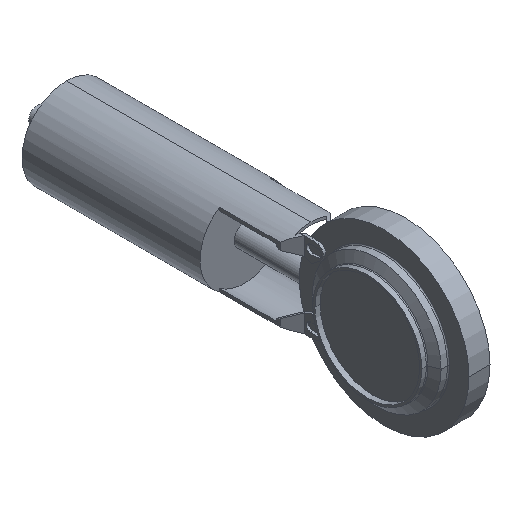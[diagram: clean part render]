
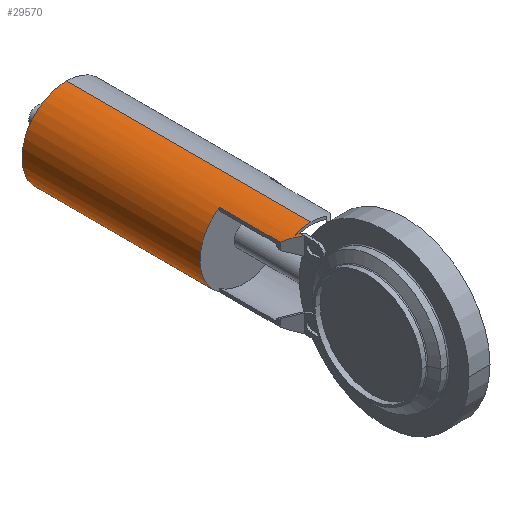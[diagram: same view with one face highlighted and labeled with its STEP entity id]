
A CAD part, isometric view. The second image highlights one B-rep face of the part: STEP entity #29570.
In plain terms, the highlighted cylindrical face has radius 42.5 mm (diameter 85 mm), a partial arc.
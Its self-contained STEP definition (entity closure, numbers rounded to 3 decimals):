
#18180=CARTESIAN_POINT('',(-438.648,176.528,
-35.075));
#18190=VERTEX_POINT('',#18180);
#18220=CARTESIAN_POINT('',(-414.648,176.528,
0.));
#18230=DIRECTION('',(0.,-1.,0.));
#18240=DIRECTION('',(0.,0.,1.));
#18250=AXIS2_PLACEMENT_3D('',#18220,#18230,#18240);
#18260=CIRCLE('',#18250,42.5);
#18270=CARTESIAN_POINT('',(-438.648,176.528,
35.075));
#18280=VERTEX_POINT('',#18270);
#18290=EDGE_CURVE('',#18280,#18190,#18260,.T.);
#23090=CARTESIAN_POINT('',(-414.648,113.128,
0.));
#23100=DIRECTION('',(0.,-1.,0.));
#23110=DIRECTION('',(0.,0.,-1.));
#23120=AXIS2_PLACEMENT_3D('',#23090,#23100,#23110);
#23130=CIRCLE('',#23120,42.5);
#23140=CARTESIAN_POINT('',(-414.648,113.128,-42.5));
#23150=VERTEX_POINT('',#23140);
#23180=CARTESIAN_POINT('',(-429.706,113.128,
-39.743));
#23190=VERTEX_POINT('',#23180);
#23200=EDGE_CURVE('',#23190,#23150,#23130,.T.);
#23460=CARTESIAN_POINT('',(-414.648,98.071,
0.));
#23470=DIRECTION('',(0.707,0.707,0.));
#23480=DIRECTION('',(0.707,-0.707,0.));
#23490=AXIS2_PLACEMENT_3D('',#23460,#23470,#23480);
#23500=ELLIPSE('',#23490,60.104,42.5);
#23510=CARTESIAN_POINT('',(-424.648,108.071,
-41.307));
#23520=VERTEX_POINT('',#23510);
#23530=EDGE_CURVE('',#23520,#23190,#23500,.T.);
#23710=CARTESIAN_POINT('',(-438.648,373.39,
-35.075));
#23720=DIRECTION('',(0.,-1.,0.));
#23730=VECTOR('',#23720,1.);
#23740=LINE('',#23710,#23730);
#23750=CARTESIAN_POINT('',(-438.648,118.535,
-35.075));
#23760=VERTEX_POINT('',#23750);
#23770=EDGE_CURVE('',#18190,#23760,#23740,.T.);
#24190=CARTESIAN_POINT('',(-427.148,100.58,
-40.62));
#24200=VERTEX_POINT('',#24190);
#24230=CARTESIAN_POINT('',(-427.148,373.39,
-40.62));
#24240=DIRECTION('',(0.,-1.,0.));
#24250=VECTOR('',#24240,1.);
#24260=LINE('',#24230,#24250);
#24270=CARTESIAN_POINT('',(-427.148,107.035,
-40.62));
#24280=VERTEX_POINT('',#24270);
#24290=EDGE_CURVE('',#24280,#24200,#24260,.T.);
#25870=CARTESIAN_POINT('',(-427.148,110.571,
40.62));
#25880=VERTEX_POINT('',#25870);
#25910=CARTESIAN_POINT('',(-414.648,98.071,
0.));
#25920=DIRECTION('',(0.707,0.707,0.));
#25930=DIRECTION('',(-0.707,0.707,0.));
#25940=AXIS2_PLACEMENT_3D('',#25910,#25920,#25930);
#25950=ELLIPSE('',#25940,60.104,42.5);
#25960=CARTESIAN_POINT('',(-429.706,113.128,
39.743));
#25970=VERTEX_POINT('',#25960);
#25980=EDGE_CURVE('',#25970,#25880,#25950,.T.);
#27310=CARTESIAN_POINT('',(-438.648,118.535,
35.075));
#27320=VERTEX_POINT('',#27310);
#27640=CARTESIAN_POINT('',(-438.648,373.39,
35.075));
#27650=DIRECTION('',(0.,-1.,0.));
#27660=VECTOR('',#27650,1.);
#27670=LINE('',#27640,#27660);
#27680=EDGE_CURVE('',#18280,#27320,#27670,.T.);
#28560=CARTESIAN_POINT('',(-414.648,113.128,
0.));
#28570=DIRECTION('',(0.,-1.,0.));
#28580=DIRECTION('',(0.,0.,1.));
#28590=AXIS2_PLACEMENT_3D('',#28560,#28570,#28580);
#28600=CIRCLE('',#28590,42.5);
#28610=CARTESIAN_POINT('',(-414.648,113.128,42.5));
#28620=VERTEX_POINT('',#28610);
#28630=EDGE_CURVE('',#28620,#25970,#28600,.T.);
#28730=CARTESIAN_POINT('',(-414.648,176.528,
0.));
#28740=DIRECTION('',(0.,-1.,0.));
#28750=DIRECTION('',(0.,0.,-1.));
#28760=AXIS2_PLACEMENT_3D('',#28730,#28740,#28750);
#28770=CYLINDRICAL_SURFACE('',#28760,42.5);
#28780=ORIENTED_EDGE('',*,*,#25980,.F.);
#28790=CARTESIAN_POINT('',(-427.148,373.39,
40.62));
#28800=DIRECTION('',(0.,-1.,0.));
#28810=VECTOR('',#28800,1.);
#28820=LINE('',#28790,#28810);
#28830=CARTESIAN_POINT('',(-427.148,107.035,
40.62));
#28840=VERTEX_POINT('',#28830);
#28850=EDGE_CURVE('',#25880,#28840,#28820,.T.);
#28860=ORIENTED_EDGE('',*,*,#28850,.F.);
#28870=CARTESIAN_POINT('',(-414.648,94.535,
0.));
#28880=DIRECTION('',(-0.707,-0.707,0.));
#28890=DIRECTION('',(0.707,-0.707,0.));
#28900=AXIS2_PLACEMENT_3D('',#28870,#28880,#28890);
#28910=ELLIPSE('',#28900,60.104,42.5);
#28920=EDGE_CURVE('',#28840,#27320,#28910,.T.);
#28930=ORIENTED_EDGE('',*,*,#28920,.F.);
#28940=ORIENTED_EDGE('',*,*,#27680,.T.);
#28950=ORIENTED_EDGE('',*,*,#18290,.F.);
#28960=ORIENTED_EDGE('',*,*,#23770,.F.);
#28970=CARTESIAN_POINT('',(-414.648,94.535,
0.));
#28980=DIRECTION('',(0.707,0.707,0.));
#28990=DIRECTION('',(0.707,-0.707,0.));
#29000=AXIS2_PLACEMENT_3D('',#28970,#28980,#28990);
#29010=ELLIPSE('',#29000,60.104,42.5);
#29020=EDGE_CURVE('',#24280,#23760,#29010,.T.);
#29030=ORIENTED_EDGE('',*,*,#29020,.T.);
#29040=ORIENTED_EDGE('',*,*,#24290,.F.);
#29050=CARTESIAN_POINT('',(-414.648,-255.939,
0.));
#29060=DIRECTION('',(0.,-0.113,-0.994));
#29070=DIRECTION('',(0.,0.994,-0.113));
#29080=AXIS2_PLACEMENT_3D('',#29050,#29060,#29070);
#29090=ELLIPSE('',#29080,375.431,42.5);
#29100=CARTESIAN_POINT('',(-425.296,105.183,
-41.145));
#29110=VERTEX_POINT('',#29100);
#29120=EDGE_CURVE('',#24200,#29110,#29090,.T.);
#29130=ORIENTED_EDGE('',*,*,#29120,.F.);
#29140=CARTESIAN_POINT('',(-414.648,94.535,
0.));
#29150=DIRECTION('',(-0.707,-0.707,0.));
#29160=DIRECTION('',(-0.707,0.707,0.));
#29170=AXIS2_PLACEMENT_3D('',#29140,#29150,#29160);
#29180=ELLIPSE('',#29170,60.104,42.5);
#29190=CARTESIAN_POINT('',(-424.648,104.535,
-41.307));
#29200=VERTEX_POINT('',#29190);
#29210=EDGE_CURVE('',#29110,#29200,#29180,.T.);
#29220=ORIENTED_EDGE('',*,*,#29210,.F.);
#29230=CARTESIAN_POINT('',(-424.648,373.39,
-41.307));
#29240=DIRECTION('',(0.,-1.,0.));
#29250=VECTOR('',#29240,1.);
#29260=LINE('',#29230,#29250);
#29270=EDGE_CURVE('',#23520,#29200,#29260,.T.);
#29280=ORIENTED_EDGE('',*,*,#29270,.T.);
#29290=ORIENTED_EDGE('',*,*,#23530,.F.);
#29300=ORIENTED_EDGE('',*,*,#23200,.F.);
#29310=CARTESIAN_POINT('',(-414.648,176.528,-42.5));
#29320=DIRECTION('',(0.,-1.,0.));
#29330=VECTOR('',#29320,1.);
#29340=LINE('',#29310,#29330);
#29350=CARTESIAN_POINT('',(-414.648,346.528,-42.5));
#29360=VERTEX_POINT('',#29350);
#29370=EDGE_CURVE('',#29360,#23150,#29340,.T.);
#29380=ORIENTED_EDGE('',*,*,#29370,.T.);
#29390=CARTESIAN_POINT('',(-414.648,346.528,
0.));
#29400=DIRECTION('',(0.,-1.,0.));
#29410=DIRECTION('',(0.,0.,-1.));
#29420=AXIS2_PLACEMENT_3D('',#29390,#29400,#29410);
#29430=CIRCLE('',#29420,42.5);
#29440=CARTESIAN_POINT('',(-414.648,346.528,42.5));
#29450=VERTEX_POINT('',#29440);
#29460=EDGE_CURVE('',#29450,#29360,#29430,.T.);
#29470=ORIENTED_EDGE('',*,*,#29460,.T.);
#29480=CARTESIAN_POINT('',(-414.648,176.528,42.5));
#29490=DIRECTION('',(0.,-1.,0.));
#29500=VECTOR('',#29490,1.);
#29510=LINE('',#29480,#29500);
#29520=EDGE_CURVE('',#29450,#28620,#29510,.T.);
#29530=ORIENTED_EDGE('',*,*,#29520,.F.);
#29540=ORIENTED_EDGE('',*,*,#28630,.F.);
#29550=EDGE_LOOP('',(#29540,#29530,#29470,#29380,#29300,#29290,#29280,
#29220,#29130,#29040,#29030,#28960,#28950,#28940,#28930,#28860,#28780));
#29560=FACE_OUTER_BOUND('',#29550,.T.);
#29570=ADVANCED_FACE('',(#29560),#28770,.T.);
